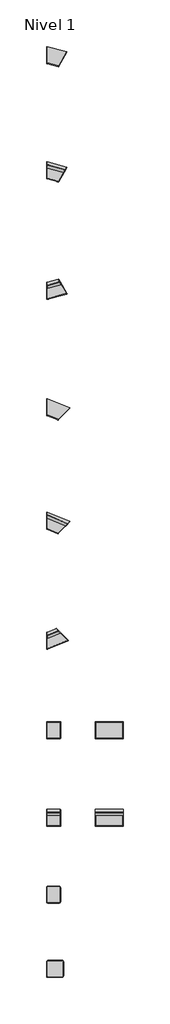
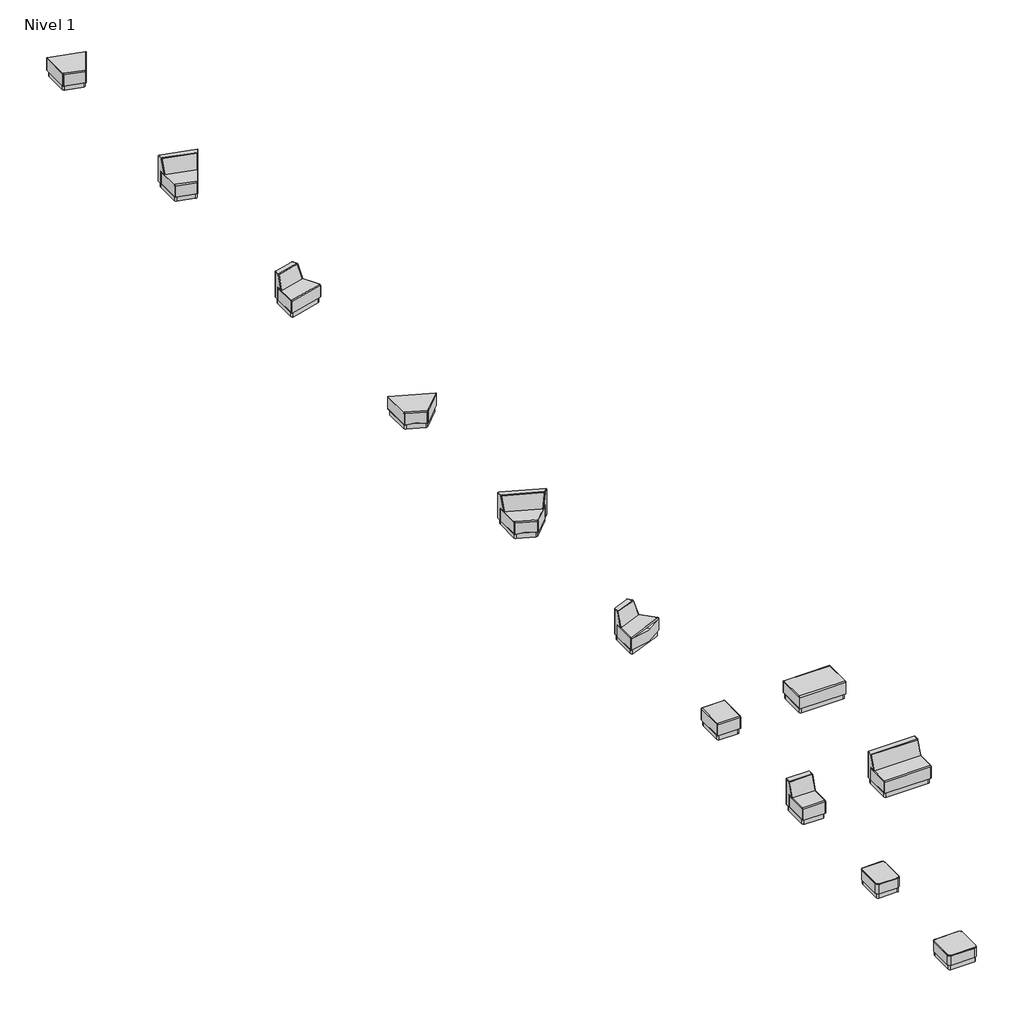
# One storey: 12 furniture elements.
"""IFC4 building model written with IfcOpenShell, lengths in millimetres."""

from ifc_helpers import new_model, si_unit, origin, place, context, project, spatial, transform, mapped, element, save
from components import furniture_73c90c74, furniture_4f7b3afb, furniture_d77f1292, furniture_e8b378a2, furniture_1c94559b, furniture_e0c8666b, furniture_a6251de5, furniture_0f2db980, rmb_200_bhp_3a3eb55d, rmb45_bhp_5dc01c21, rmb45_out_bhp_de5602b4, rmr30_out_bhp_222f223d

model = new_model("IFC4")

# Units and contexts
model_context = context("Model", 3, world=origin())
ifc_project = project(units=[si_unit("LENGTHUNIT", "METRE", prefix="MILLI")], contexts=[model_context])

# Site, building, storey
site = spatial("IfcSite", under=ifc_project)
building = spatial("IfcBuilding", under=site)
storey = spatial("IfcBuildingStorey", under=building, Name="Nivel 1", Elevation=3821.0700841)

# Furniture
placement = place(None, origin())
furniture_shape = furniture_73c90c74(model_context)
element("IfcFurniture", 1, ObjectType="Stance_HC-Rosetta-30_Curve_Bench_Plinth_Base : RMBR30-BHP", at=placement, inside=storey, context=model_context, shape_type="MappedRepresentation", body=[
    mapped(furniture_shape, transform((-5002.747877, 24553.8503255, 3821.0700841), x_axis=(1.0, 0.0, 0.0), y_axis=(0.0, 1.0, 0.0), z_axis=(0.0, 0.0, 1.0))),
])
furniture_2_shape = furniture_4f7b3afb(model_context)
element("IfcFurniture", 2, ObjectType="Stance_HC-Rosetta-30_Curve_Inside_Plinth_Base : RMR30-IN-BHP", at=placement, inside=storey, context=model_context, shape_type="MappedRepresentation", body=[
    mapped(furniture_2_shape, transform((-5002.747877, 19733.4494161, 3821.0700841), x_axis=(1.0, 0.0, 0.0), y_axis=(0.0, 1.0, 0.0), z_axis=(0.0, 0.0, 1.0))),
])
furniture_3_shape = furniture_d77f1292(model_context)
element("IfcFurniture", 3, ObjectType="Stance_HC-Rosetta-45_Curve_Inside_Plinth_Base : RMB45-IN-BHP", at=placement, inside=storey, context=model_context, shape_type="MappedRepresentation", body=[
    mapped(furniture_3_shape, transform((-5002.747877, 5089.6966995, 3821.0700841), x_axis=(1.0, 0.0, 0.0), y_axis=(0.0, 1.0, 0.0), z_axis=(0.0, 0.0, 1.0))),
])
furniture_4_shape = furniture_e8b378a2(model_context)
element("IfcFurniture", 4, ObjectType="Stance_HC-Rosetta-Bench_Plinth_Base : RMB-SPB-BHP", at=placement, inside=storey, context=model_context, shape_type="MappedRepresentation", body=[
    mapped(furniture_4_shape, transform((-5002.747877, -3669.0886003, 3821.0700841), x_axis=(1.0, 0.0, 0.0), y_axis=(0.0, 1.0, 0.0), z_axis=(0.0, 0.0, 1.0))),
])
furniture_5_shape = furniture_1c94559b(model_context)
element("IfcFurniture", 5, ObjectType="Stance_HC-Rosetta-Modular_Seating_Plinth_Base : RM100P-AL-BHP", at=placement, inside=storey, context=model_context, shape_type="MappedRepresentation", body=[
    mapped(furniture_5_shape, transform((-5002.747877, -7339.0147035, 3821.0700841), x_axis=(1.0, 0.0, 0.0), y_axis=(0.0, 1.0, 0.0), z_axis=(0.0, 0.0, 1.0))),
])
furniture_6_shape = furniture_e0c8666b(model_context)
element("IfcFurniture", 6, ObjectType="Stance_HC-Rosetta-Modular_Seating_Plinth_Base : RM200P-AL-BHP", at=placement, inside=storey, context=model_context, shape_type="MappedRepresentation", body=[
    mapped(furniture_6_shape, transform((-2962.9113655, -7339.0147035, 3821.0700841), x_axis=(1.0, 0.0, 0.0), y_axis=(0.0, 1.0, 0.0), z_axis=(0.0, 0.0, 1.0))),
])
furniture_7_shape = furniture_a6251de5(model_context)
element("IfcFurniture", 7, ObjectType="Stance_HC-Rosetta-Rectangular_Table : RM-RT-BHP", at=placement, inside=storey, context=model_context, shape_type="MappedRepresentation", body=[
    mapped(furniture_7_shape, transform((-5002.747877, -10546.0672441, 3821.0700841), x_axis=(1.0, 0.0, 0.0), y_axis=(0.0, 1.0, 0.0), z_axis=(0.0, 0.0, 1.0))),
])
furniture_8_shape = furniture_0f2db980(model_context)
element("IfcFurniture", 8, ObjectType="Stance_HC-Rosetta-Square_Table : RM-SQ-BHP", at=placement, inside=storey, context=model_context, shape_type="MappedRepresentation", body=[
    mapped(furniture_8_shape, transform((-5002.747877, -13653.9325927, 3821.0700841), x_axis=(1.0, 0.0, 0.0), y_axis=(0.0, 1.0, 0.0), z_axis=(0.0, 0.0, 1.0))),
])
rmb_200_bhp_shape = rmb_200_bhp_3a3eb55d(model_context)
element("IfcFurniture", 9, ObjectType="Stance_HC-Rosetta-Bench_Plinth_Base : RMB-200-BHP", at=placement, inside=storey, context=model_context, shape_type="MappedRepresentation", body=[
    mapped(rmb_200_bhp_shape, transform((-2962.9113655, -3669.0886003, 3821.0700841), x_axis=(1.0, 0.0, 0.0), y_axis=(0.0, 1.0, 0.0), z_axis=(0.0, 0.0, 1.0))),
])
rmb45_bhp_shape = rmb45_bhp_5dc01c21(model_context)
element("IfcFurniture", 10, ObjectType="Stance_HC-Rosetta-45_Curve_Bench_Plinth_Base : RMB45-BHP", at=placement, inside=storey, context=model_context, shape_type="MappedRepresentation", body=[
    mapped(rmb45_bhp_shape, transform((-5002.747877, 9838.9663258, 3821.0700841), x_axis=(1.0, 0.0, 0.0), y_axis=(0.0, 1.0, 0.0), z_axis=(0.0, 0.0, 1.0))),
])
rmb45_out_bhp_shape = rmb45_out_bhp_de5602b4(model_context)
element("IfcFurniture", 11, ObjectType="Stance_HC-Rosetta-45_Curve_Outside_Plinth_Base : RMB45-OUT-BHP", at=placement, inside=storey, context=model_context, shape_type="MappedRepresentation", body=[
    mapped(rmb45_out_bhp_shape, transform((-5002.747877, 58.4623239, 3821.0700841), x_axis=(1.0, 0.0, 0.0), y_axis=(0.0, 1.0, 0.0), z_axis=(0.0, 0.0, 1.0))),
])
rmr30_out_bhp_shape = rmr30_out_bhp_222f223d(model_context)
element("IfcFurniture", 12, ObjectType="Stance_HC-Rosetta-30_Curve_Outside_Plinth_Base : RMR30-OUT-BHP", at=placement, inside=storey, context=model_context, shape_type="MappedRepresentation", body=[
    mapped(rmr30_out_bhp_shape, transform((-5002.747877, 14699.360607, 3821.0700841), x_axis=(1.0, 0.0, 0.0), y_axis=(0.0, 1.0, 0.0), z_axis=(0.0, 0.0, 1.0))),
])

save(model, "model.ifc")
